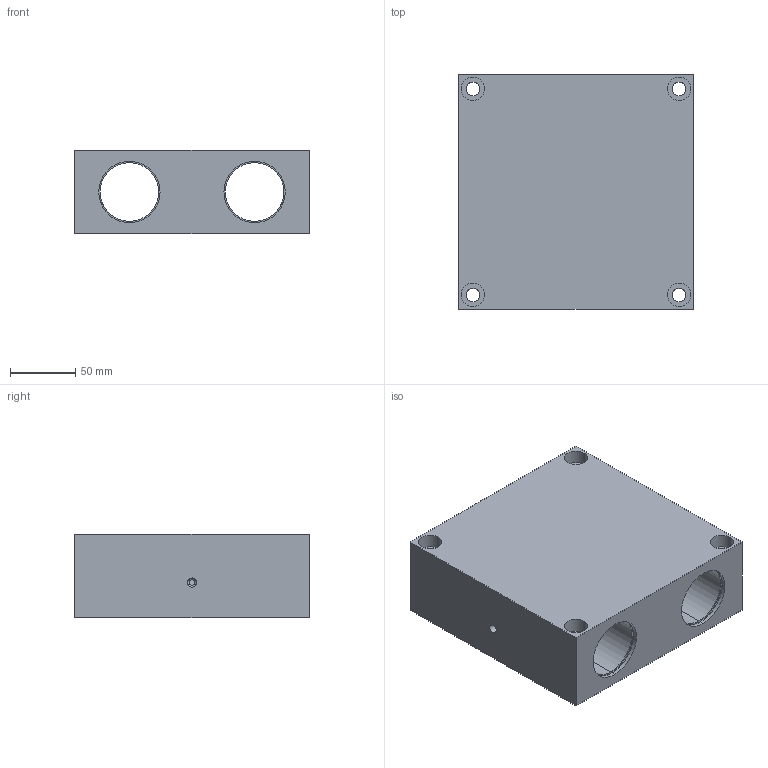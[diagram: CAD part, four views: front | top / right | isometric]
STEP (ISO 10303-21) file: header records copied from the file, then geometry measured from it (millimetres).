
FILE_DESCRIPTION (( 'STEP AP214' ), '1' );
FILE_NAME ('KQSG-30.step', '2020-03-04T13:34:29', ( '' ), ( '' ), 'SwSTEP 2.0', 'SolidWorks 2019', '' );
FILE_SCHEMA (( 'AUTOMOTIVE_DESIGN' ));
Length unit declared in the file: millimetre
Products named in the file (1): KQSG-30
Bounding box: 180 x 180 x 64 mm (x, y, z)
Volume: 1427224.4 mm3; surface area: 168271.6 mm2
Topology: 1 solids, 1 shells, 96 faces, 210 edges, 135 vertices
Faces by surface type: cylinder 62, plane 26, cone 8
Entity records: 3062 total; most frequent: CARTESIAN_POINT 558, DIRECTION 520, ORIENTED_EDGE 416, AXIS2_PLACEMENT_3D 219, EDGE_CURVE 208, VERTEX_POINT 135, EDGE_LOOP 133, CIRCLE 122
